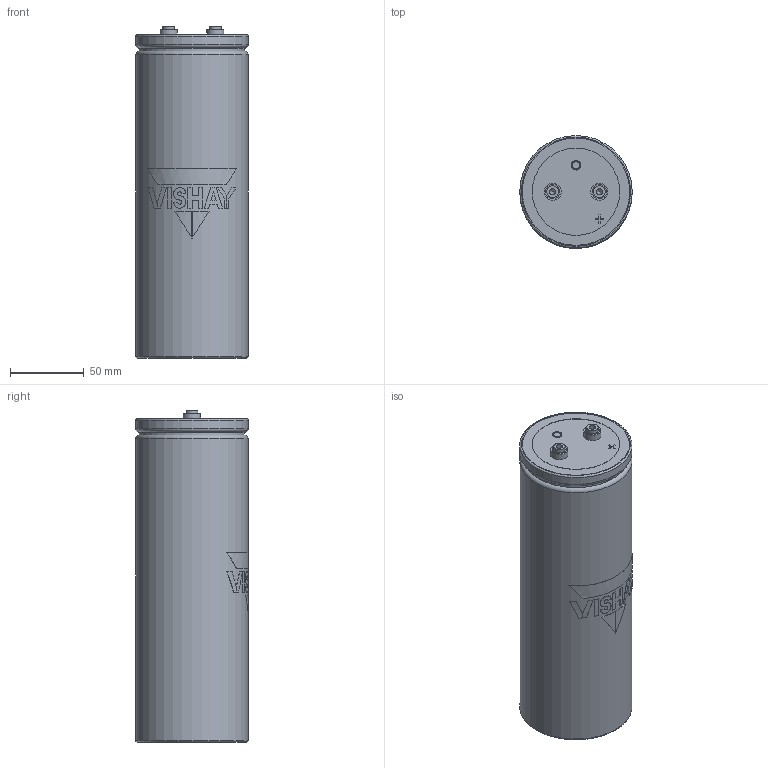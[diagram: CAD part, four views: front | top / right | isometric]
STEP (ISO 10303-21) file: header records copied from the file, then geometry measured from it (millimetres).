
FILE_DESCRIPTION(('FreeCAD Model'),'2;1');
FILE_NAME('C:/Users/tvandesteeg/Documents/Documents/FreeCAD/Stepfiles/ST capacitors/ST_HP_M5_76x220.step','2020-07-02T17:33:22',('Author'),(''), 'Open CASCADE STEP processor 7.3','FreeCAD','Unknown');
FILE_SCHEMA(('AUTOMOTIVE_DESIGN { 1 0 10303 214 1 1 1 1 }'));
Length unit declared in the file: millimetre
Products named in the file (7): VentBody; TerminalBody_(Mirror_#2); TerminalBody; Disc; LogoPrint; CanBody; BottomBody
Bounding box: 76.4 x 76.5 x 225.7 mm (x, y, z)
Volume: 1002156.8 mm3; surface area: 87775.2 mm2
Topology: 17 solids, 17 shells, 149 faces, 313 edges, 206 vertices
Faces by surface type: plane 93, cylinder 48, torus 5, cone 3
Full cylindrical faces by diameter (mm): 4.2 x2, 5 x2, 7.9 x2, 9.8 x6, 11.7 x2, 59.422 x3, 71.4 x1, 72 x2, 76.4 x2
Entity records: 10653 total; most frequent: CARTESIAN_POINT 3357, DIRECTION 1204, ORIENTED_EDGE 622, PCURVE 622, DEFINITIONAL_REPRESENTATION 622, LINE 532, VECTOR 532, EDGE_CURVE 311
